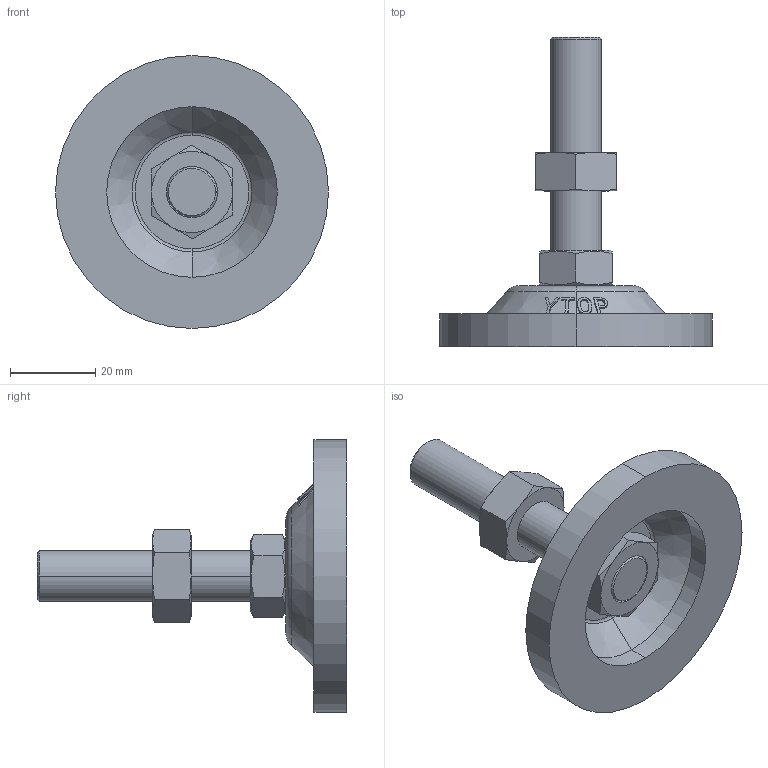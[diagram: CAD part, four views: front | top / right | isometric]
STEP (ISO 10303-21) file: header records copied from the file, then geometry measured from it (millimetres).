
FILE_DESCRIPTION (( 'STEP AP203' ), '1' );
FILE_NAME ('P-64-1250-BR.STEP', '2020-09-10T08:54:40', ( '' ), ( '' ), 'SwSTEP 2.0', 'SolidWorks 2016', '' );
FILE_SCHEMA (( 'CONFIG_CONTROL_DESIGN' ));
Length unit declared in the file: millimetre
Products named in the file (5): P-64-1250-BR; 脚垫锁紧六角薄螺母M12; P-64-1菁釱-3P; 傲郈蹟裝M12炵蹈_M12X50; 脚垫调节六角螺母M12
Assembly tree (4 placements, depth 2):
  P-64-1250-BR
    P-64-1菁釱-3P
    傲郈蹟裝M12炵蹈_M12X50
    脚垫锁紧六角薄螺母M12
    脚垫调节六角螺母M12
Bounding box: 64 x 72.6 x 64 mm (x, y, z)
Volume: 30710.8 mm3; surface area: 21035.1 mm2
Topology: 5 solids, 5 shells, 158 faces, 360 edges, 224 vertices
Faces by surface type: cone 56, bspline 38, plane 34, cylinder 20, torus 10
Entity records: 8568 total; most frequent: CARTESIAN_POINT 4864, ORIENTED_EDGE 720, DIRECTION 546, EDGE_CURVE 360, AXIS2_PLACEMENT_3D 241, VERTEX_POINT 224, B_SPLINE_CURVE_WITH_KNOTS 182, EDGE_LOOP 178
